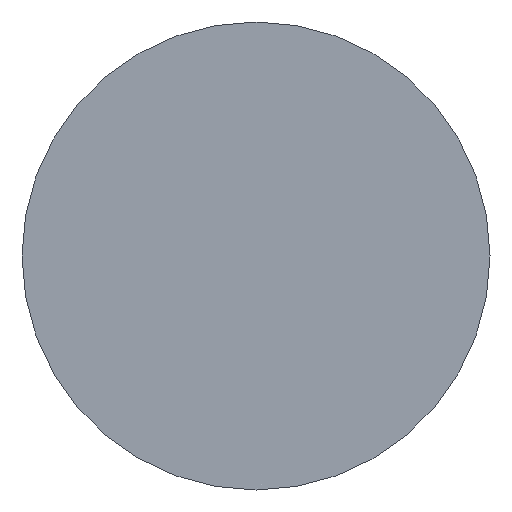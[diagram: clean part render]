
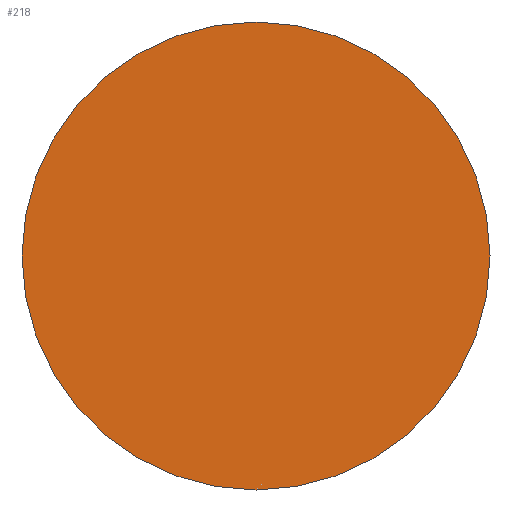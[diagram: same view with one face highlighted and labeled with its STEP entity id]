
A CAD part, left-side view. The second image highlights one B-rep face of the part: STEP entity #218.
In plain terms, the highlighted planar face has unit normal (-1, 0, 0).
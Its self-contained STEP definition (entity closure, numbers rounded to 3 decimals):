
#51 = FACE_OUTER_BOUND ( 'NONE', #343, .T. ) ;
#52 = EDGE_CURVE ( 'NONE', #180, #295, #324, .T. ) ;
#95 = CARTESIAN_POINT ( 'NONE',  ( -8.955, 0., -29.76 ) ) ;
#115 = DIRECTION ( 'NONE',  ( 1., 0., 0. ) ) ;
#133 = AXIS2_PLACEMENT_3D ( 'NONE', #285, #115, #259 ) ;
#144 = DIRECTION ( 'NONE',  ( 1., 0., 0. ) ) ;
#180 = VERTEX_POINT ( 'NONE', #352 ) ;
#183 = CARTESIAN_POINT ( 'NONE',  ( -8.955, 0., 0. ) ) ;
#186 = DIRECTION ( 'NONE',  ( -1., 0., 0. ) ) ;
#197 = EDGE_CURVE ( 'NONE', #295, #180, #306, .T. ) ;
#218 = ADVANCED_FACE ( 'NONE', ( #51 ), #289, .T. ) ;
#259 = DIRECTION ( 'NONE',  ( 0., 0., -1. ) ) ;
#266 = ORIENTED_EDGE ( 'NONE', *, *, #52, .F. ) ;
#285 = CARTESIAN_POINT ( 'NONE',  ( -8.955, 0., 0. ) ) ;
#289 = PLANE ( 'NONE',  #331 ) ;
#295 = VERTEX_POINT ( 'NONE', #95 ) ;
#306 = CIRCLE ( 'NONE', #133, 29.76 ) ;
#318 = CARTESIAN_POINT ( 'NONE',  ( -8.955, 0., 0. ) ) ;
#324 = CIRCLE ( 'NONE', #423, 29.76 ) ;
#331 = AXIS2_PLACEMENT_3D ( 'NONE', #318, #186, #422 ) ;
#343 = EDGE_LOOP ( 'NONE', ( #409, #266 ) ) ;
#352 = CARTESIAN_POINT ( 'NONE',  ( -8.955, 0., 29.76 ) ) ;
#402 = DIRECTION ( 'NONE',  ( 0., 0., -1. ) ) ;
#409 = ORIENTED_EDGE ( 'NONE', *, *, #197, .F. ) ;
#422 = DIRECTION ( 'NONE',  ( 0., 0., 1. ) ) ;
#423 = AXIS2_PLACEMENT_3D ( 'NONE', #183, #144, #402 ) ;
